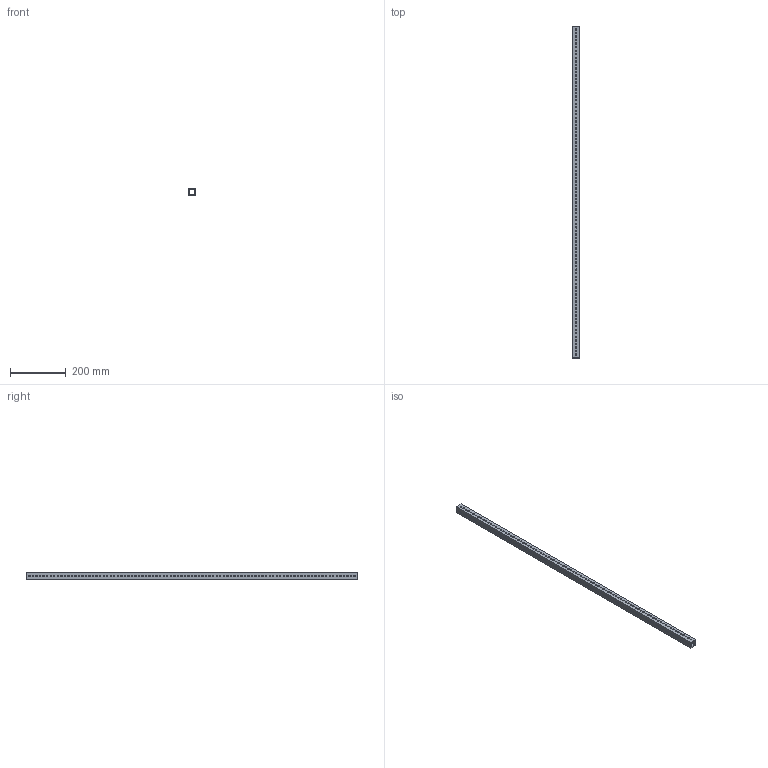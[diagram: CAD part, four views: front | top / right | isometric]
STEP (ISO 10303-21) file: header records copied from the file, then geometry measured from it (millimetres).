
FILE_DESCRIPTION(/* description */ (''),/* implementation_level */ '2;1');
FILE_NAME(/* name */ 'SR-TUBE-1X1-0.125-GRID.step',/* time_stamp */ '2026-06-06T13:47:49-07:00',/* author */ (''),/* organization */ (''),/* preprocessor_version */ 'ST-DEVELOPER v20.1',/* originating_system */ 'Autodesk Translation Framework v15.8.0.0',/* authorisation */ '');
FILE_SCHEMA (('AUTOMOTIVE_DESIGN { 1 0 10303 214 3 1 1 }'));
Length unit declared in the file: inch
Products named in the file (2): SR-TUBE-1X1-0.125-GRID; Component1
Assembly tree (1 placements, depth 2):
  SR-TUBE-1X1-0.125-GRID
    Component1
Bounding box: 25.4 x 1193.8 x 25.4 mm (x, y, z)
Volume: 320053.1 mm3; surface area: 211701.3 mm2
Topology: 1 solids, 1 shells, 386 faces, 1152 edges, 768 vertices
Faces by surface type: cylinder 376, plane 10
Full cylindrical faces by diameter (mm): 5 x372
Entity records: 14995 total; most frequent: DIRECTION 2682, CARTESIAN_POINT 2309, ORIENTED_EDGE 2304, EDGE_CURVE 1152, AXIS2_PLACEMENT_3D 1141, EDGE_LOOP 1132, VERTEX_POINT 768, CIRCLE 752
